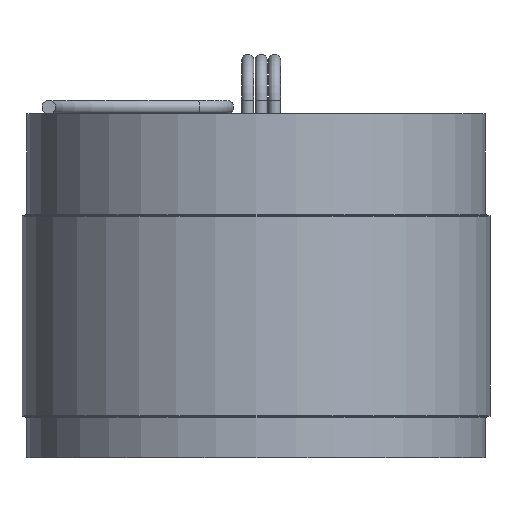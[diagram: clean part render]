
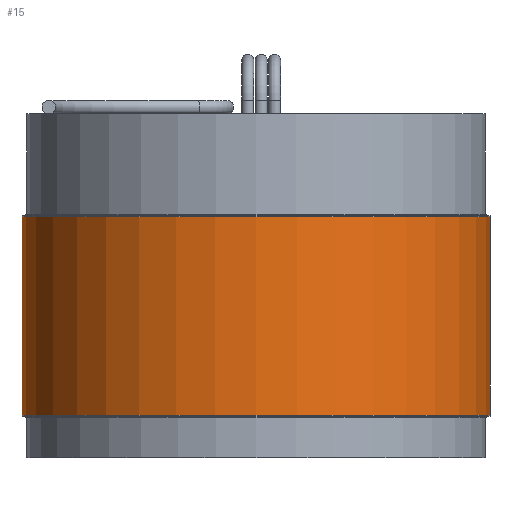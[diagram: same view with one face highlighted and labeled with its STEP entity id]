
A CAD part, front view. The second image highlights one B-rep face of the part: STEP entity #15.
In plain terms, the highlighted cylindrical face has radius 44.45 mm (diameter 88.9 mm), a full revolution.
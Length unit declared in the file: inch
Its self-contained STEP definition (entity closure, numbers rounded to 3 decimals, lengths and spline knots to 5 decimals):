
#15 = ADVANCED_FACE ( 'NONE', ( #1320, #247 ), #91, .T. ) ;
#77 = AXIS2_PLACEMENT_3D ( 'NONE', #470, #284, #377 ) ;
#84 = DIRECTION ( 'NONE',  ( 0., 0., 1. ) ) ;
#91 = CYLINDRICAL_SURFACE ( 'NONE', #77, 1.75 ) ;
#98 = AXIS2_PLACEMENT_3D ( 'NONE', #734, #84, #1076 ) ;
#243 = CIRCLE ( 'NONE', #98, 1.75 ) ;
#247 = FACE_OUTER_BOUND ( 'NONE', #1345, .T. ) ;
#284 = DIRECTION ( 'NONE',  ( 0., 0., 1. ) ) ;
#293 = DIRECTION ( 'NONE',  ( 1., 0., 0. ) ) ;
#294 = CIRCLE ( 'NONE', #497, 1.75 ) ;
#370 = CARTESIAN_POINT ( 'NONE',  ( 0., 0., 0.74213 ) ) ;
#377 = DIRECTION ( 'NONE',  ( 1., 0., 0. ) ) ;
#399 = CARTESIAN_POINT ( 'NONE',  ( 1.75, 0., 0.74213 ) ) ;
#470 = CARTESIAN_POINT ( 'NONE',  ( 0., 0., -0.76 ) ) ;
#472 = VERTEX_POINT ( 'NONE', #933 ) ;
#497 = AXIS2_PLACEMENT_3D ( 'NONE', #370, #592, #293 ) ;
#503 = VERTEX_POINT ( 'NONE', #399 ) ;
#592 = DIRECTION ( 'NONE',  ( 0., 0., 1. ) ) ;
#734 = CARTESIAN_POINT ( 'NONE',  ( 0., 0., -0.74213 ) ) ;
#933 = CARTESIAN_POINT ( 'NONE',  ( 1.75, 0., -0.74213 ) ) ;
#997 = ORIENTED_EDGE ( 'NONE', *, *, #1350, .F. ) ;
#1076 = DIRECTION ( 'NONE',  ( 1., 0., 0. ) ) ;
#1283 = EDGE_CURVE ( 'NONE', #472, #472, #243, .T. ) ;
#1320 = FACE_OUTER_BOUND ( 'NONE', #1400, .T. ) ;
#1345 = EDGE_LOOP ( 'NONE', ( #1406 ) ) ;
#1350 = EDGE_CURVE ( 'NONE', #503, #503, #294, .T. ) ;
#1400 = EDGE_LOOP ( 'NONE', ( #997 ) ) ;
#1406 = ORIENTED_EDGE ( 'NONE', *, *, #1283, .T. ) ;
